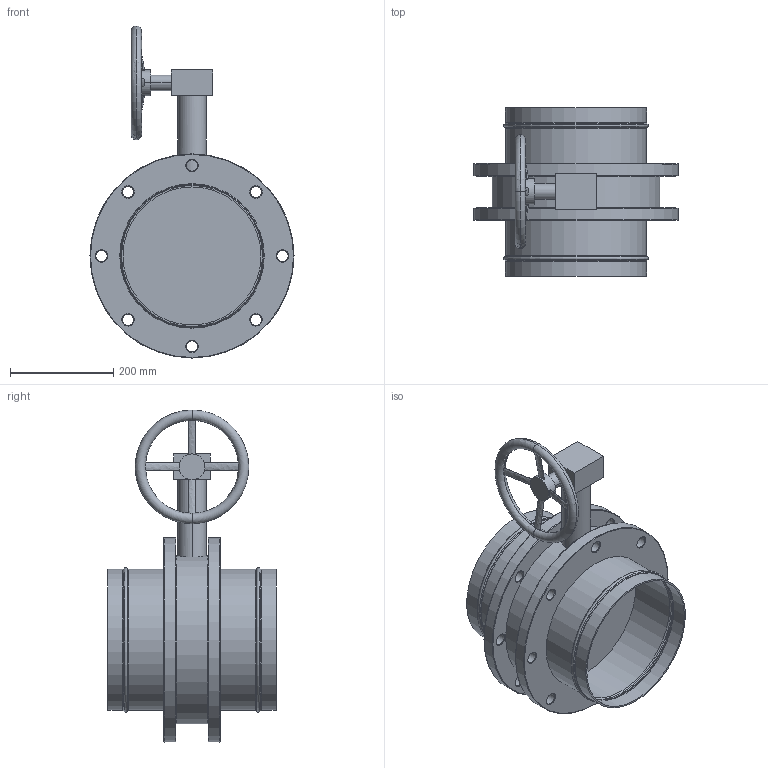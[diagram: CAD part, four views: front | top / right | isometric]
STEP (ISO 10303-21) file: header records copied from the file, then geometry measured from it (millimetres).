
FILE_DESCRIPTION(/* description */ (''),/* implementation_level */ '2;1');
FILE_NAME(/* name */ '50151120103.stp',/* time_stamp */ '2020-06-22T14:22:23+08:00',/* author */ (''),/* organization */ (''),/* preprocessor_version */ 'ST-DEVELOPER v11',/* originating_system */ 'SIEMENS PLM Software NX 7.5',/* authorisation */ '');
FILE_SCHEMA (('CONFIG_CONTROL_DESIGN'));
Length unit declared in the file: millimetre
Products named in the file (1): Admi4F60b41i
Bounding box: 395 x 326 x 642.5 mm (x, y, z)
Volume: 9541427.5 mm3; surface area: 1090721.4 mm2
Topology: 3 solids, 3 shells, 141 faces, 359 edges, 232 vertices
Faces by surface type: cone 52, cylinder 33, plane 24, torus 24, extrusion 8
Full cylindrical faces by diameter (mm): 22 x16, 267 x4, 273 x4, 325 x1, 395 x2
Entity records: 3832 total; most frequent: CARTESIAN_POINT 884, DIRECTION 620, ORIENTED_EDGE 424, EDGE_LOOP 292, AXIS2_PLACEMENT_3D 292, FACE_BOUND 269, EDGE_CURVE 212, VERTEX_POINT 184
